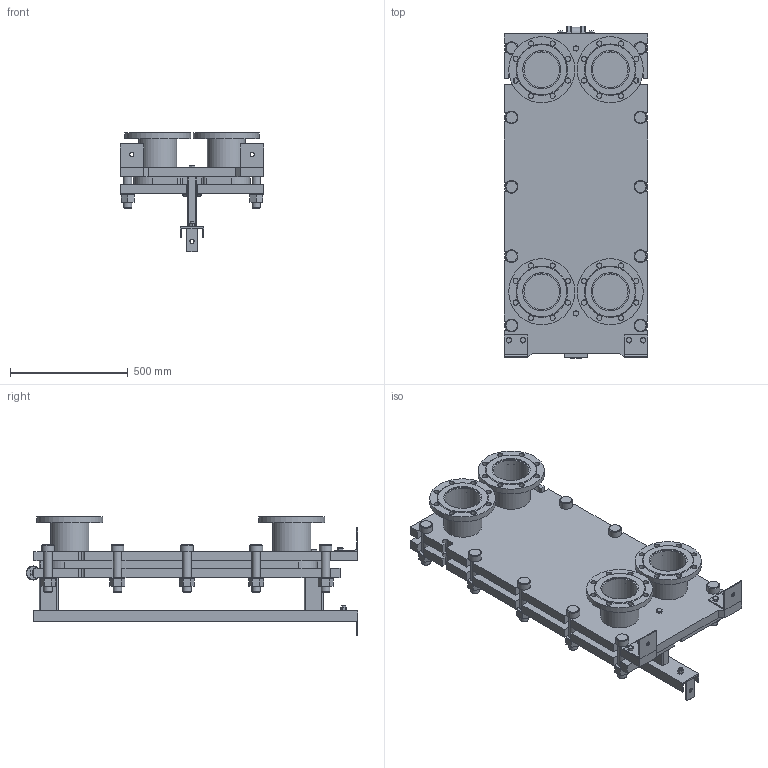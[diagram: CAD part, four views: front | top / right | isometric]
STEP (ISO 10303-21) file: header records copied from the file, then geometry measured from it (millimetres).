
FILE_DESCRIPTION(/* description */ (''),/* implementation_level */ '2;1');
FILE_NAME(/* name */ 'C:\Users\zhuro\Desktop\ENCO\TO\ЭН-041\ЭН-0,5-041-9-1.stp',/* time_stamp */ '2022-06-06T10:48:31+03:00',/* author */ ('zhuro'),/* organization */ (''),/* preprocessor_version */ 'ST-DEVELOPER v18.1',/* originating_system */ 'Autodesk Inventor 2022',/* authorisation */ '');
FILE_SCHEMA (('AUTOMOTIVE_DESIGN { 1 0 10303 214 3 1 1 }'));
Length unit declared in the file: millimetre
Products named in the file (1): ЭН-0,5-041-9-1
Bounding box: 610 x 1406.5 x 507.5 mm (x, y, z)
Volume: 91542026.6 mm3; surface area: 7018035.7 mm2
Topology: 52 solids, 52 shells, 711 faces, 1696 edges, 1094 vertices
Faces by surface type: plane 487, cylinder 177, cone 41, torus 6
Full cylindrical faces by diameter (mm): 8 x4, 10 x2, 16 x8, 18 x3, 22 x32, 36 x24, 50 x1, 54 x10, 60 x12, 151 x4, 161 x8, 280 x4
Entity records: 22667 total; most frequent: CARTESIAN_POINT 5230, DIRECTION 3644, ORIENTED_EDGE 3392, EDGE_CURVE 1696, AXIS2_PLACEMENT_3D 1272, LINE 1100, VECTOR 1100, VERTEX_POINT 1094
